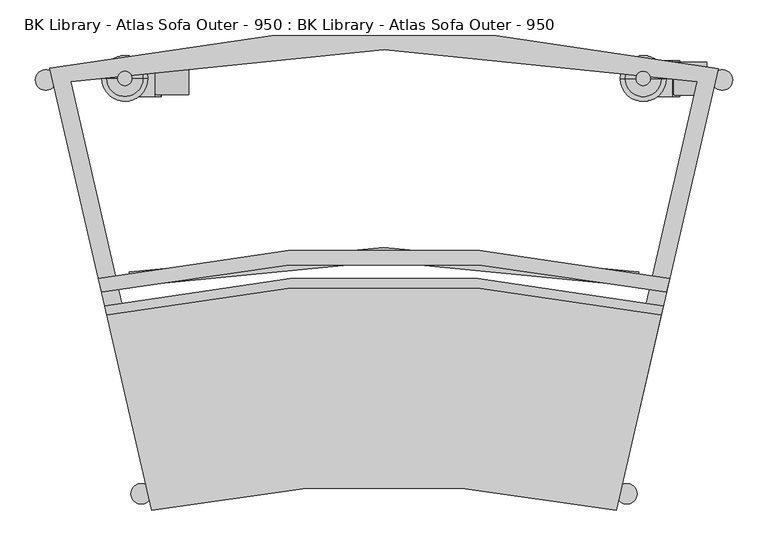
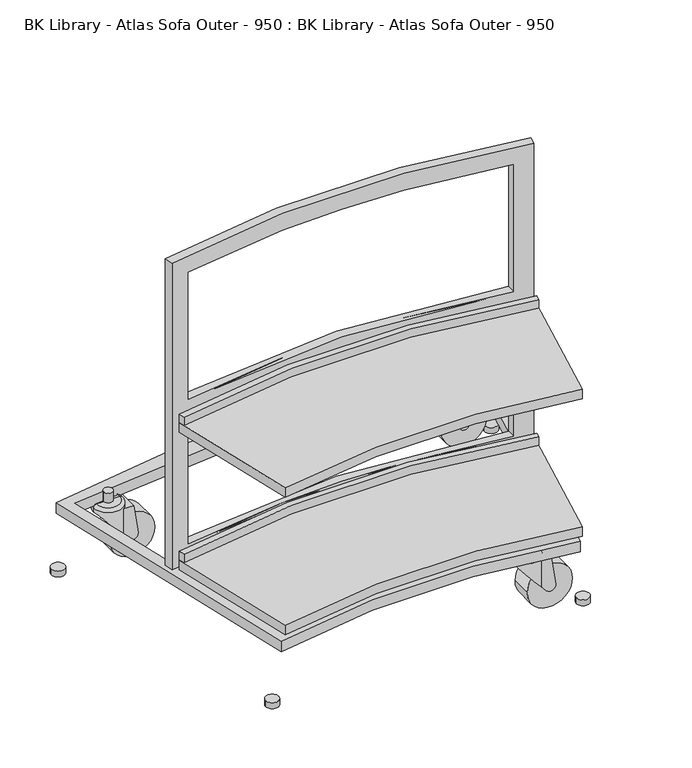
"""IFC4 building model written with IfcOpenShell, lengths in millimetres: furniture geometry, BK Library - Atlas Sofa Outer - 950 : BK Library - Atlas Sofa Outer - 950."""

from ifc_helpers import new_model, si_unit, point, frame, frame_2d, origin, origin_with_axes, place, context, project, spatial, polyline, circle_curve, ellipse_curve, trimmed, segment, composite_curve, outline, extrude, source, transform, mapped, element, save
from ifc_brep_helpers import plane_surface, cylinder_surface, revolved_surface, advanced_brep


def bk_library_atlas_sofa_outer_950_bk_library_atlas_sofa_outer_0c4ed581(model_context):
    return source(origin(), model_context, "Body", "SolidModel", [
        advanced_brep(
        [(209.7505812, -241.350678, 113.1446696), (209.7505812, -267.2971978, 113.1446696), (207.0481733, -254.3239379, 113.1446696), (270.6212072, -279.8412398, 41.8401668), (290.9900774, -279.8412398, 51.0748876), (281.4730575, -279.8412398, 116.3900038), (259.6524577, -279.8412398, 116.3900038), (259.6524577, -279.8412398, 54.6890773), (281.4730575, -228.8995985, 116.3900038), (290.9900774, -228.8995985, 51.0748876), (270.6212072, -228.8995985, 41.8401668), (259.7698407, -228.8995985, 54.5515736), (259.7698407, -228.8995985, 116.3900038), (272.0303981, -254.3239379, 116.3900038), (270.6212072, -277.4827459, 41.8401668), (270.6212072, -231.2580924, 41.8401668), (262.422449, -231.2580924, 51.4442799), (268.358405, -239.3195801, 44.4908375), (268.358405, -254.3239379, 44.4908375), (268.358405, -269.3282957, 44.4908375), (262.328362, -277.4827459, 51.5544945), (290.9900774, -277.4827459, 51.0748876), (290.9900774, -231.2580924, 51.0748876), (281.8358742, -277.4827459, 113.8999998), (281.8358742, -231.2580924, 113.8999998), (262.328362, -277.4827459, 113.8999998), (272.0303981, -254.3239379, 113.8999998), (262.422449, -231.2580924, 113.8999998), (207.0481733, -254.3239379, 121.6226045), (272.0303981, -254.3239379, 121.6226045), (272.0303981, -254.3239379, 44.4908375), (265.0303981, -254.3239379, 128.6226045), (214.0481733, -254.3239379, 128.6226045), (239.5392857, -254.3239379, 128.6226045)],
        [
            (0, 1),
            (1, 2, circle_curve(frame((239.5392857, -254.3239379, 113.1446696), z_axis=(0.0, 0.0, -1.0), x_axis=(-1.0, 0.0, 0.0)), 32.4911124)),
            (2, 0, circle_curve(frame((239.5392857, -254.3239379, 113.1446696), z_axis=(0.0, 0.0, -1.0), x_axis=(-1.0, 0.0, 0.0)), 32.4911124)),
            (3, 4, circle_curve(frame((279.4730731, -279.8412398, 49.3967529), z_axis=(0.0, -1.0, 0.0), x_axis=(1.0, 0.0, 0.0)), 11.6386221)),
            (4, 5),
            (5, 6),
            (6, 7),
            (7, 3),
            (8, 9),
            (9, 10, circle_curve(frame((279.4730731, -228.8995985, 49.3967529), z_axis=(0.0, 1.0, 0.0), x_axis=(1.0, 0.0, 0.0)), 11.6386221)),
            (10, 11),
            (11, 12),
            (12, 8),
            (5, 8),
            (12, 13, circle_curve(frame((239.5392857, -254.3239379, 116.3900038), z_axis=(0.0, 0.0, -1.0), x_axis=(-1.0, 0.0, 0.0)), 32.4911124)),
            (13, 6, circle_curve(frame((239.5392857, -254.3239379, 116.3900038), z_axis=(0.0, 0.0, -1.0), x_axis=(-1.0, 0.0, 0.0)), 32.4911124)),
            (14, 3),
            (7, 1, ellipse_curve(frame((239.5392857, -254.3239379, 78.2498623), z_axis=(-0.7605596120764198, 0.0, -0.6492681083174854), x_axis=(0.6492681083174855, 0.0, -0.7605596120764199)), 50.0426742, 32.4911124)),
            (0, 11, ellipse_curve(frame((239.5392857, -254.3239379, 78.2498623), z_axis=(-0.7605596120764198, 0.0, -0.6492681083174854), x_axis=(0.6492681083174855, 0.0, -0.7605596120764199)), 50.0426742, 32.4911124)),
            (10, 15),
            (15, 16),
            (16, 17, ellipse_curve(frame((239.5392857, -254.3239379, 78.2498623), z_axis=(-0.7605596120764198, 0.0, -0.6492681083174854), x_axis=(0.6492681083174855, 0.0, -0.7605596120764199)), 50.0426742, 32.4911124)),
            (17, 18),
            (18, 19),
            (19, 20, ellipse_curve(frame((239.5392857, -254.3239379, 78.2498623), z_axis=(-0.7605596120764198, 0.0, -0.6492681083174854), x_axis=(0.6492681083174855, 0.0, -0.7605596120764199)), 50.0426742, 32.4911124)),
            (20, 14),
            (14, 21, circle_curve(frame((279.4730731, -277.4827459, 49.3967529), z_axis=(0.0, -1.0, 0.0), x_axis=(1.0, 0.0, 0.0)), 11.6386221)),
            (21, 4),
            (9, 22),
            (22, 15, circle_curve(frame((279.4730731, -231.2580924, 49.3967529), z_axis=(0.0, 1.0, 0.0), x_axis=(1.0, 0.0, 0.0)), 11.6386221)),
            (21, 23),
            (23, 24),
            (24, 22),
            (20, 25),
            (25, 23),
            (25, 26, circle_curve(frame((239.5392857, -254.3239379, 113.8999998), z_axis=(0.0, 0.0, 1.0), x_axis=(-1.0, 0.0, 0.0)), 32.4911124)),
            (26, 27, circle_curve(frame((239.5392857, -254.3239379, 113.8999998), z_axis=(0.0, 0.0, 1.0), x_axis=(-1.0, 0.0, 0.0)), 32.4911124)),
            (27, 24),
            (27, 16),
            (28, 29, circle_curve(frame((239.5392857, -254.3239379, 121.6226045), z_axis=(0.0, 0.0, -1.0), x_axis=(-1.0, 0.0, 0.0)), 32.4911124)),
            (29, 13),
            (2, 28),
            (26, 30),
            (30, 17, circle_curve(frame((239.5392857, -254.3239379, 44.4908375), z_axis=(0.0, 0.0, 1.0), x_axis=(-1.0, 0.0, 0.0)), 32.4911124)),
            (19, 30, circle_curve(frame((239.5392857, -254.3239379, 44.4908375), z_axis=(0.0, 0.0, 1.0), x_axis=(-1.0, 0.0, 0.0)), 32.4911124)),
            (29, 28, circle_curve(frame((239.5392857, -254.3239379, 121.6226045), z_axis=(0.0, 0.0, -1.0), x_axis=(-1.0, 0.0, 0.0)), 32.4911124)),
            (30, 18),
            (31, 32, circle_curve(frame((239.5392857, -254.3239379, 128.6226045), z_axis=(0.0, 0.0, 1.0), x_axis=(-1.0, 0.0, 0.0)), 25.4911124)),
            (32, 33),
            (33, 31),
            (32, 31, circle_curve(frame((239.5392857, -254.3239379, 128.6226045), z_axis=(0.0, 0.0, 1.0), x_axis=(-1.0, 0.0, 0.0)), 25.4911124)),
            (28, 32, circle_curve(frame((214.0481733, -254.3239379, 121.6226045), z_axis=(0.0, 1.0, 0.0), x_axis=(1.0, 0.0, 0.0)), 7.0)),
            (31, 29, circle_curve(frame((265.0303981, -254.3239379, 121.6226045), z_axis=(0.0, 1.0, 0.0), x_axis=(-1.0, 0.0, 0.0)), 7.0)),
        ],
        [
            plane_surface(frame((209.7505812, -336.8261814, 113.1446696), z_axis=(0.0, 0.0, -1.0), x_axis=(0.0, 1.0, 0.0))),
            plane_surface(frame((281.4730575, -279.8412398, 116.3900038), z_axis=(0.0, -1.0, 0.0), x_axis=(-1.0, 0.0, 0.0))),
            plane_surface(frame((281.4730575, -228.8995985, 116.3900038), z_axis=(0.0, 1.0, 0.0), x_axis=(1.0, 0.0, 0.0))),
            plane_surface(frame((281.4730575, -279.8412398, 116.3900038), z_axis=(0.0, 0.0, 1.0), x_axis=(0.0, 1.0, 0.0))),
            plane_surface(frame((236.4730575, -279.8412398, 81.8416749), z_axis=(-0.7605596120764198, 0.0, -0.6492681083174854), x_axis=(0.0, 1.0, 0.0))),
            cylinder_surface(frame((279.4730731, -228.8995985, 49.3967529), z_axis=(0.0, -1.0, 0.0), x_axis=(1.0, 0.0, 0.0)), 11.6386221),
            plane_surface(frame((290.9900774, -279.8412398, 51.0748876), z_axis=(0.9895505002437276, 0.0, 0.14418671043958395), x_axis=(0.0, 1.0, 0.0))),
            plane_surface(frame((305.0673642, -277.4827459, 113.8999998), z_axis=(0.0, 1.0, 0.0), x_axis=(-1.0, 0.0, 0.0))),
            plane_surface(frame((305.0673642, -231.2580924, 113.8999998), z_axis=(0.0, 0.0, -1.0), x_axis=(-1.0, 0.0, 0.0))),
            plane_surface(frame((305.0673642, -231.2580924, 11.6999998), z_axis=(0.0, -1.0, 0.0), x_axis=(-1.0, 0.0, 0.0))),
            cylinder_surface(frame((239.5392857, -254.3239379, 133.8335618), z_axis=(0.0, 0.0, -1.0), x_axis=(-1.0, 0.0, 0.0)), 32.4911124),
            plane_surface(frame((239.5392857, -254.3239379, 44.4908375), z_axis=(0.0, 0.0, -1.0), x_axis=(-1.0, 0.0, 0.0))),
            plane_surface(frame((239.5392857, -254.3239379, 128.6226045), z_axis=(0.0, 0.0, 1.0), x_axis=(-1.0, 0.0, 0.0))),
            revolved_surface(trimmed(ellipse_curve(frame((214.0481733, -254.3239379, 121.6226045), z_axis=(0.0, -1.0, 0.0), x_axis=(1.0, 0.0, 0.0)), 7.0, 7.0), [point((214.0481733, -254.3239379, 128.6226045))], [point((207.0481733, -254.3239379, 121.6226045))], True, "CARTESIAN"), (239.5392857, -254.3239379, 133.8335618), (0.0, 0.0, -1.0)),
        ],
        [
            (0, [[1, 2, 3]]),
            (1, [[4, 5, 6, 7, 8]]),
            (2, [[9, 10, 11, 12, 13]]),
            (3, [[14, -13, 15, 16, -6]]),
            (4, [[17, -8, 18, -1, 19, -11, 20, 21, 22, 23, 24, 25, 26]]),
            (5, [[-4, -17, 27, 28]]),
            (5, [[-10, 29, 30, -20]]),
            (6, [[-5, -28, 31, 32, 33, -29, -9, -14]]),
            (7, [[-27, -26, 34, 35, -31]]),
            (8, [[-32, -35, 36, 37, 38]]),
            (9, [[-30, -33, -38, 39, -21]]),
            (10, [[40, 41, -15, -12, -19, -3, 42]]),
            (10, [[43, 44, -22, -39, -37]]),
            (10, [[-43, -36, -34, -25, 45]]),
            (10, [[46, -42, -2, -18, -7, -16, -41]]),
            (11, [[-44, 47, -23]]),
            (11, [[-47, -45, -24]]),
            (12, [[48, 49, 50]]),
            (12, [[-49, 51, -50]]),
            (13, [[-40, 52, -48, 53]]),
            (13, [[-46, -53, -51, -52]]),
        ],
    ),
        extrude(outline(composite_curve([segment(trimmed(circle_curve(frame_2d((49.3999998, 279.5548478)), 50.0), [point((49.3999998, 229.5548478))], [point((49.3999998, 329.5548478))], False, "CARTESIAN"), True, "CONTINUOUS"), segment(trimmed(circle_curve(frame_2d((49.3999998, 279.5548478)), 50.0), [point((49.3999998, 329.5548478))], [point((49.3999998, 229.5548478))], False, "CARTESIAN"), True, "CONTINUOUS")], self_intersect=False)), frame((0.0, -277.4827459, 0.0), z_axis=(0.0, 1.0, 0.0), x_axis=(0.0, 0.0, 1.0)), (0.0, 0.0, 1.0), 46.2857127),
        extrude(outline(composite_curve([segment(trimmed(circle_curve(frame_2d((239.5392857, -254.3548557)), 10.0), [point((229.5392857, -254.3548557))], [point((249.5392857, -254.3548557))], False, "CARTESIAN"), True, "CONTINUOUS"), segment(trimmed(circle_curve(frame_2d((239.5392857, -254.3548557)), 10.0), [point((249.5392857, -254.3548557))], [point((229.5392857, -254.3548557))], False, "CARTESIAN"), True, "CONTINUOUS")], self_intersect=False)), frame((0.0, 0.0, 126.1999998), z_axis=(0.0, 0.0, 1.0), x_axis=(1.0, 0.0, 0.0)), (0.0, 0.0, 1.0), 24.8998986),
        advanced_brep(
        [(336.1023802, 305.2827462, 113.1446696), (336.1023802, 279.3362264, 113.1446696), (333.3999722, 292.3094863, 113.1446696), (396.9730061, 266.7921844, 41.8401668), (417.3418763, 266.7921844, 51.0748876), (407.8248565, 266.7921844, 116.3900038), (386.0042567, 266.7921844, 116.3900038), (386.0042567, 266.7921844, 54.6890773), (407.8248565, 317.7338257, 116.3900038), (417.3418763, 317.7338257, 51.0748876), (396.9730061, 317.7338257, 41.8401668), (386.1216397, 317.7338257, 54.5515736), (386.1216397, 317.7338257, 116.3900038), (398.3821971, 292.3094863, 116.3900038), (396.9730061, 269.1506783, 41.8401668), (396.9730061, 315.3753318, 41.8401668), (388.7742479, 315.3753318, 51.4442799), (394.7102039, 307.3138441, 44.4908375), (394.7102039, 292.3094863, 44.4908375), (394.7102039, 277.3051285, 44.4908375), (388.6801609, 269.1506783, 51.5544945), (417.3418763, 269.1506783, 51.0748876), (417.3418763, 315.3753318, 51.0748876), (408.1876732, 269.1506783, 113.8999998), (408.1876732, 315.3753318, 113.8999998), (388.6801609, 269.1506783, 113.8999998), (398.3821971, 292.3094863, 113.8999998), (388.7742479, 315.3753318, 113.8999998), (333.3999722, 292.3094863, 121.6226045), (398.3821971, 292.3094863, 121.6226045), (398.3821971, 292.3094863, 44.4908375), (391.3821971, 292.3094863, 128.6226045), (340.3999722, 292.3094863, 128.6226045), (365.8910847, 292.3094863, 128.6226045)],
        [
            (0, 1),
            (1, 2, circle_curve(frame((365.8910847, 292.3094863, 113.1446696), z_axis=(0.0, 0.0, -1.0), x_axis=(-1.0, 0.0, 0.0)), 32.4911124)),
            (2, 0, circle_curve(frame((365.8910847, 292.3094863, 113.1446696), z_axis=(0.0, 0.0, -1.0), x_axis=(-1.0, 0.0, 0.0)), 32.4911124)),
            (3, 4, circle_curve(frame((405.824872, 266.7921844, 49.3967529), z_axis=(0.0, -1.0, 0.0), x_axis=(1.0, 0.0, 0.0)), 11.6386221)),
            (4, 5),
            (5, 6),
            (6, 7),
            (7, 3),
            (8, 9),
            (9, 10, circle_curve(frame((405.824872, 317.7338257, 49.3967529), z_axis=(0.0, 1.0, 0.0), x_axis=(1.0, 0.0, 0.0)), 11.6386221)),
            (10, 11),
            (11, 12),
            (12, 8),
            (5, 8),
            (12, 13, circle_curve(frame((365.8910847, 292.3094863, 116.3900038), z_axis=(0.0, 0.0, -1.0), x_axis=(-1.0, 0.0, 0.0)), 32.4911124)),
            (13, 6, circle_curve(frame((365.8910847, 292.3094863, 116.3900038), z_axis=(0.0, 0.0, -1.0), x_axis=(-1.0, 0.0, 0.0)), 32.4911124)),
            (14, 3),
            (7, 1, ellipse_curve(frame((365.8910847, 292.3094863, 78.2498623), z_axis=(-0.76055961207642, 0.0, -0.649268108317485), x_axis=(0.649268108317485, 0.0, -0.76055961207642)), 50.0426742, 32.4911124)),
            (0, 11, ellipse_curve(frame((365.8910847, 292.3094863, 78.2498623), z_axis=(-0.76055961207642, 0.0, -0.649268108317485), x_axis=(0.649268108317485, 0.0, -0.76055961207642)), 50.0426742, 32.4911124)),
            (10, 15),
            (15, 16),
            (16, 17, ellipse_curve(frame((365.8910847, 292.3094863, 78.2498623), z_axis=(-0.76055961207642, 0.0, -0.649268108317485), x_axis=(0.649268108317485, 0.0, -0.76055961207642)), 50.0426742, 32.4911124)),
            (17, 18),
            (18, 19),
            (19, 20, ellipse_curve(frame((365.8910847, 292.3094863, 78.2498623), z_axis=(-0.76055961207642, 0.0, -0.649268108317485), x_axis=(0.649268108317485, 0.0, -0.76055961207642)), 50.0426742, 32.4911124)),
            (20, 14),
            (14, 21, circle_curve(frame((405.824872, 269.1506783, 49.3967529), z_axis=(0.0, -1.0, 0.0), x_axis=(1.0, 0.0, 0.0)), 11.6386221)),
            (21, 4),
            (9, 22),
            (22, 15, circle_curve(frame((405.824872, 315.3753318, 49.3967529), z_axis=(0.0, 1.0, 0.0), x_axis=(1.0, 0.0, 0.0)), 11.6386221)),
            (21, 23),
            (23, 24),
            (24, 22),
            (20, 25),
            (25, 23),
            (25, 26, circle_curve(frame((365.8910847, 292.3094863, 113.8999998), z_axis=(0.0, 0.0, 1.0), x_axis=(-1.0, 0.0, 0.0)), 32.4911124)),
            (26, 27, circle_curve(frame((365.8910847, 292.3094863, 113.8999998), z_axis=(0.0, 0.0, 1.0), x_axis=(-1.0, 0.0, 0.0)), 32.4911124)),
            (27, 24),
            (27, 16),
            (28, 29, circle_curve(frame((365.8910847, 292.3094863, 121.6226045), z_axis=(0.0, 0.0, -1.0), x_axis=(-1.0, 0.0, 0.0)), 32.4911124)),
            (29, 13),
            (2, 28),
            (26, 30),
            (30, 17, circle_curve(frame((365.8910847, 292.3094863, 44.4908375), z_axis=(0.0, 0.0, 1.0), x_axis=(-1.0, 0.0, 0.0)), 32.4911124)),
            (19, 30, circle_curve(frame((365.8910847, 292.3094863, 44.4908375), z_axis=(0.0, 0.0, 1.0), x_axis=(-1.0, 0.0, 0.0)), 32.4911124)),
            (29, 28, circle_curve(frame((365.8910847, 292.3094863, 121.6226045), z_axis=(0.0, 0.0, -1.0), x_axis=(-1.0, 0.0, 0.0)), 32.4911124)),
            (30, 18),
            (31, 32, circle_curve(frame((365.8910847, 292.3094863, 128.6226045), z_axis=(0.0, 0.0, 1.0), x_axis=(-1.0, 0.0, 0.0)), 25.4911124)),
            (32, 33),
            (33, 31),
            (32, 31, circle_curve(frame((365.8910847, 292.3094863, 128.6226045), z_axis=(0.0, 0.0, 1.0), x_axis=(-1.0, 0.0, 0.0)), 25.4911124)),
            (28, 32, circle_curve(frame((340.3999722, 292.3094863, 121.6226045), z_axis=(0.0, 1.0, 0.0), x_axis=(1.0, 0.0, 0.0)), 7.0)),
            (31, 29, circle_curve(frame((391.3821971, 292.3094863, 121.6226045), z_axis=(0.0, 1.0, 0.0), x_axis=(-1.0, 0.0, 0.0)), 7.0)),
        ],
        [
            plane_surface(frame((336.1023802, 209.8072428, 113.1446696), z_axis=(0.0, 0.0, -1.0), x_axis=(0.0, 1.0, 0.0))),
            plane_surface(frame((407.8248565, 266.7921844, 116.3900038), z_axis=(0.0, -1.0, 0.0), x_axis=(-1.0, 0.0, 0.0))),
            plane_surface(frame((407.8248565, 317.7338257, 116.3900038), z_axis=(0.0, 1.0, 0.0), x_axis=(1.0, 0.0, 0.0))),
            plane_surface(frame((407.8248565, 266.7921844, 116.3900038), z_axis=(0.0, 0.0, 1.0), x_axis=(0.0, 1.0, 0.0))),
            plane_surface(frame((362.8248565, 266.7921844, 81.8416749), z_axis=(-0.76055961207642, 0.0, -0.649268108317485), x_axis=(0.0, 1.0, 0.0))),
            cylinder_surface(frame((405.824872, 317.7338257, 49.3967529), z_axis=(0.0, -1.0, 0.0), x_axis=(1.0, 0.0, 0.0)), 11.6386221),
            plane_surface(frame((417.3418763, 266.7921844, 51.0748876), z_axis=(0.9895505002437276, 0.0, 0.14418671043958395), x_axis=(0.0, 1.0, 0.0))),
            plane_surface(frame((431.4191632, 269.1506783, 113.8999998), z_axis=(0.0, 1.0, 0.0), x_axis=(-1.0, 0.0, 0.0))),
            plane_surface(frame((431.4191632, 315.3753318, 113.8999998), z_axis=(0.0, 0.0, -1.0), x_axis=(-1.0, 0.0, 0.0))),
            plane_surface(frame((431.4191632, 315.3753318, 11.6999998), z_axis=(0.0, -1.0, 0.0), x_axis=(-1.0, 0.0, 0.0))),
            cylinder_surface(frame((365.8910847, 292.3094863, 133.8335618), z_axis=(0.0, 0.0, -1.0), x_axis=(-1.0, 0.0, 0.0)), 32.4911124),
            plane_surface(frame((365.8910847, 292.3094863, 44.4908375), z_axis=(0.0, 0.0, -1.0), x_axis=(-1.0, 0.0, 0.0))),
            plane_surface(frame((365.8910847, 292.3094863, 128.6226045), z_axis=(0.0, 0.0, 1.0), x_axis=(-1.0, 0.0, 0.0))),
            revolved_surface(trimmed(ellipse_curve(frame((340.3999722, 292.3094863, 121.6226045), z_axis=(0.0, -1.0, 0.0), x_axis=(1.0, 0.0, 0.0)), 7.0, 7.0), [point((340.3999722, 292.3094863, 128.6226045))], [point((333.3999722, 292.3094863, 121.6226045))], True, "CARTESIAN"), (365.8910847, 292.3094863, 133.8335618), (0.0, 0.0, -1.0)),
        ],
        [
            (0, [[1, 2, 3]]),
            (1, [[4, 5, 6, 7, 8]]),
            (2, [[9, 10, 11, 12, 13]]),
            (3, [[14, -13, 15, 16, -6]]),
            (4, [[17, -8, 18, -1, 19, -11, 20, 21, 22, 23, 24, 25, 26]]),
            (5, [[-4, -17, 27, 28]]),
            (5, [[-10, 29, 30, -20]]),
            (6, [[-5, -28, 31, 32, 33, -29, -9, -14]]),
            (7, [[-27, -26, 34, 35, -31]]),
            (8, [[-32, -35, 36, 37, 38]]),
            (9, [[-30, -33, -38, 39, -21]]),
            (10, [[40, 41, -15, -12, -19, -3, 42]]),
            (10, [[43, 44, -22, -39, -37]]),
            (10, [[-43, -36, -34, -25, 45]]),
            (10, [[46, -42, -2, -18, -7, -16, -41]]),
            (11, [[-44, 47, -23]]),
            (11, [[-47, -45, -24]]),
            (12, [[48, 49, 50]]),
            (12, [[-49, 51, -50]]),
            (13, [[-40, 52, -48, 53]]),
            (13, [[-46, -53, -51, -52]]),
        ],
    ),
        extrude(outline(composite_curve([segment(trimmed(circle_curve(frame_2d((49.3999998, 405.9066468)), 50.0), [point((49.3999998, 355.9066468))], [point((49.3999998, 455.9066468))], False, "CARTESIAN"), True, "CONTINUOUS"), segment(trimmed(circle_curve(frame_2d((49.3999998, 405.9066468)), 50.0), [point((49.3999998, 455.9066468))], [point((49.3999998, 355.9066468))], False, "CARTESIAN"), True, "CONTINUOUS")], self_intersect=False)), frame((0.0, 269.1506783, 0.0), z_axis=(0.0, 1.0, 0.0), x_axis=(0.0, 0.0, 1.0)), (0.0, 0.0, 1.0), 46.2857127),
        extrude(outline(composite_curve([segment(trimmed(circle_curve(frame_2d((49.3999998, -325.7608412)), 50.0), [point((49.3999998, -375.7608412))], [point((49.3999998, -275.7608412))], False, "CARTESIAN"), True, "CONTINUOUS"), segment(trimmed(circle_curve(frame_2d((49.3999998, -325.7608412)), 50.0), [point((49.3999998, -275.7608412))], [point((49.3999998, -375.7608412))], False, "CARTESIAN"), True, "CONTINUOUS")], self_intersect=False)), frame((0.0, 269.3422284, 0.0), z_axis=(0.0, 1.0, 0.0), x_axis=(0.0, 0.0, 1.0)), (0.0, 0.0, 1.0), 46.2857127),
        extrude(outline(composite_curve([segment(trimmed(circle_curve(frame_2d((365.8910847, 292.2785685)), 10.0), [point((355.8910847, 292.2785685))], [point((375.8910847, 292.2785685))], False, "CARTESIAN"), True, "CONTINUOUS"), segment(trimmed(circle_curve(frame_2d((365.8910847, 292.2785685)), 10.0), [point((375.8910847, 292.2785685))], [point((355.8910847, 292.2785685))], False, "CARTESIAN"), True, "CONTINUOUS")], self_intersect=False)), frame((0.0, 0.0, 126.1999998), z_axis=(0.0, 0.0, 1.0), x_axis=(1.0, 0.0, 0.0)), (0.0, 0.0, 1.0), 24.8998986),
        advanced_brep(
        [(-334.6944819, 266.9837345, 41.8401668), (-314.3256117, 266.9837345, 51.0748876), (-323.8426315, 266.9837345, 116.3900038), (-345.6632313, 266.9837345, 116.3900038), (-345.6632313, 266.9837345, 54.6890773), (-323.8426315, 317.9253758, 116.3900038), (-314.3256117, 317.9253758, 51.0748876), (-334.6944819, 317.9253758, 41.8401668), (-345.5458483, 317.9253758, 54.5515736), (-345.5458483, 317.9253758, 116.3900038), (-333.2852909, 292.5010364, 116.3900038), (-334.6944819, 269.3422284, 41.8401668), (-395.5651078, 279.5277766, 113.1446696), (-395.5651078, 305.4742963, 113.1446696), (-334.6944819, 315.5668819, 41.8401668), (-342.89324, 315.5668819, 51.4442799), (-336.9572841, 307.5053942, 44.4908375), (-336.9572841, 292.5010364, 44.4908375), (-336.9572841, 277.4966786, 44.4908375), (-342.9873271, 269.3422284, 51.5544945), (-314.3256117, 269.3422284, 51.0748876), (-314.3256117, 315.5668819, 51.0748876), (-323.4798148, 269.3422284, 113.8999998), (-323.4798148, 315.5668819, 113.8999998), (-342.9873271, 269.3422284, 113.8999998), (-333.2852909, 292.5010364, 113.8999998), (-342.89324, 315.5668819, 113.8999998), (-398.2675157, 292.5010364, 121.6226045), (-333.2852909, 292.5010364, 121.6226045), (-398.2675157, 292.5010364, 113.1446696), (-333.2852909, 292.5010364, 44.4908375), (-340.2852909, 292.5010364, 128.6226045), (-391.2675157, 292.5010364, 128.6226045), (-365.7764033, 292.5010364, 128.6226045)],
        [
            (0, 1, circle_curve(frame((-325.842616, 266.9837345, 49.3967529), z_axis=(0.0, -1.0, 0.0), x_axis=(1.0, 0.0, 0.0)), 11.6386221)),
            (1, 2),
            (2, 3),
            (3, 4),
            (4, 0),
            (5, 6),
            (6, 7, circle_curve(frame((-325.842616, 317.9253758, 49.3967529), z_axis=(0.0, 1.0, 0.0), x_axis=(1.0, 0.0, 0.0)), 11.6386221)),
            (7, 8),
            (8, 9),
            (9, 5),
            (2, 5),
            (9, 10, circle_curve(frame((-365.7764033, 292.5010364, 116.3900038), z_axis=(0.0, 0.0, -1.0), x_axis=(-1.0, 0.0, 0.0)), 32.4911124)),
            (10, 3, circle_curve(frame((-365.7764033, 292.5010364, 116.3900038), z_axis=(0.0, 0.0, -1.0), x_axis=(-1.0, 0.0, 0.0)), 32.4911124)),
            (11, 0),
            (4, 12, ellipse_curve(frame((-365.7764033, 292.5010364, 78.2498623), z_axis=(-0.76055961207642, 0.0, -0.649268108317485), x_axis=(0.649268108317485, 0.0, -0.76055961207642)), 50.0426742, 32.4911124)),
            (12, 13),
            (13, 8, ellipse_curve(frame((-365.7764033, 292.5010364, 78.2498623), z_axis=(-0.76055961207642, 0.0, -0.649268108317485), x_axis=(0.649268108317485, 0.0, -0.76055961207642)), 50.0426742, 32.4911124)),
            (7, 14),
            (14, 15),
            (15, 16, ellipse_curve(frame((-365.7764033, 292.5010364, 78.2498623), z_axis=(-0.76055961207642, 0.0, -0.649268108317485), x_axis=(0.649268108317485, 0.0, -0.76055961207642)), 50.0426742, 32.4911124)),
            (16, 17),
            (17, 18),
            (18, 19, ellipse_curve(frame((-365.7764033, 292.5010364, 78.2498623), z_axis=(-0.76055961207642, 0.0, -0.649268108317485), x_axis=(0.649268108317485, 0.0, -0.76055961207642)), 50.0426742, 32.4911124)),
            (19, 11),
            (11, 20, circle_curve(frame((-325.842616, 269.3422284, 49.3967529), z_axis=(0.0, -1.0, 0.0), x_axis=(1.0, 0.0, 0.0)), 11.6386221)),
            (20, 1),
            (6, 21),
            (21, 14, circle_curve(frame((-325.842616, 315.5668819, 49.3967529), z_axis=(0.0, 1.0, 0.0), x_axis=(1.0, 0.0, 0.0)), 11.6386221)),
            (20, 22),
            (22, 23),
            (23, 21),
            (19, 24),
            (24, 22),
            (24, 25, circle_curve(frame((-365.7764033, 292.5010364, 113.8999998), z_axis=(0.0, 0.0, 1.0), x_axis=(-1.0, 0.0, 0.0)), 32.4911124)),
            (25, 26, circle_curve(frame((-365.7764033, 292.5010364, 113.8999998), z_axis=(0.0, 0.0, 1.0), x_axis=(-1.0, 0.0, 0.0)), 32.4911124)),
            (26, 23),
            (26, 15),
            (27, 28, circle_curve(frame((-365.7764033, 292.5010364, 121.6226045), z_axis=(0.0, 0.0, -1.0), x_axis=(-1.0, 0.0, 0.0)), 32.4911124)),
            (28, 10),
            (13, 29, circle_curve(frame((-365.7764033, 292.5010364, 113.1446696), z_axis=(0.0, 0.0, 1.0), x_axis=(-1.0, 0.0, 0.0)), 32.4911124)),
            (29, 27),
            (30, 16, circle_curve(frame((-365.7764033, 292.5010364, 44.4908375), z_axis=(0.0, 0.0, 1.0), x_axis=(-1.0, 0.0, 0.0)), 32.4911124)),
            (25, 30),
            (28, 27, circle_curve(frame((-365.7764033, 292.5010364, 121.6226045), z_axis=(0.0, 0.0, -1.0), x_axis=(-1.0, 0.0, 0.0)), 32.4911124)),
            (29, 12, circle_curve(frame((-365.7764033, 292.5010364, 113.1446696), z_axis=(0.0, 0.0, 1.0), x_axis=(-1.0, 0.0, 0.0)), 32.4911124)),
            (18, 30, circle_curve(frame((-365.7764033, 292.5010364, 44.4908375), z_axis=(0.0, 0.0, 1.0), x_axis=(-1.0, 0.0, 0.0)), 32.4911124)),
            (30, 17),
            (31, 32, circle_curve(frame((-365.7764033, 292.5010364, 128.6226045), z_axis=(0.0, 0.0, 1.0), x_axis=(-1.0, 0.0, 0.0)), 25.4911124)),
            (32, 33),
            (33, 31),
            (32, 31, circle_curve(frame((-365.7764033, 292.5010364, 128.6226045), z_axis=(0.0, 0.0, 1.0), x_axis=(-1.0, 0.0, 0.0)), 25.4911124)),
            (27, 32, circle_curve(frame((-391.2675157, 292.5010364, 121.6226045), z_axis=(0.0, 1.0, 0.0), x_axis=(1.0, 0.0, 0.0)), 7.0)),
            (31, 28, circle_curve(frame((-340.2852909, 292.5010364, 121.6226045), z_axis=(0.0, 1.0, 0.0), x_axis=(-1.0, 0.0, 0.0)), 7.0)),
        ],
        [
            plane_surface(frame((-323.8426315, 266.9837345, 116.3900038), z_axis=(0.0, -1.0, 0.0), x_axis=(-1.0, 0.0, 0.0))),
            plane_surface(frame((-323.8426315, 317.9253758, 116.3900038), z_axis=(0.0, 1.0, 0.0), x_axis=(1.0, 0.0, 0.0))),
            plane_surface(frame((-323.8426315, 266.9837345, 116.3900038), z_axis=(0.0, 0.0, 1.0), x_axis=(0.0, 1.0, 0.0))),
            plane_surface(frame((-368.8426315, 266.9837345, 81.8416749), z_axis=(-0.76055961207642, 0.0, -0.649268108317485), x_axis=(0.0, 1.0, 0.0))),
            cylinder_surface(frame((-325.842616, 317.9253758, 49.3967529), z_axis=(0.0, -1.0, 0.0), x_axis=(1.0, 0.0, 0.0)), 11.6386221),
            plane_surface(frame((-314.3256117, 266.9837345, 51.0748876), z_axis=(0.9895505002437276, 0.0, 0.14418671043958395), x_axis=(0.0, 1.0, 0.0))),
            plane_surface(frame((-300.2483248, 269.3422284, 113.8999998), z_axis=(0.0, 1.0, 0.0), x_axis=(-1.0, 0.0, 0.0))),
            plane_surface(frame((-300.2483248, 315.5668819, 113.8999998), z_axis=(0.0, 0.0, -1.0), x_axis=(-1.0, 0.0, 0.0))),
            plane_surface(frame((-300.2483248, 315.5668819, 11.6999998), z_axis=(0.0, -1.0, 0.0), x_axis=(-1.0, 0.0, 0.0))),
            cylinder_surface(frame((-365.7764033, 292.5010364, 133.8335618), z_axis=(0.0, 0.0, -1.0), x_axis=(-1.0, 0.0, 0.0)), 32.4911124),
            plane_surface(frame((-365.7764033, 292.5010364, 44.4908375), z_axis=(0.0, 0.0, -1.0), x_axis=(-1.0, 0.0, 0.0))),
            plane_surface(frame((-365.7764033, 292.5010364, 128.6226045), z_axis=(0.0, 0.0, 1.0), x_axis=(-1.0, 0.0, 0.0))),
            revolved_surface(trimmed(ellipse_curve(frame((-391.2675157, 292.5010364, 121.6226045), z_axis=(0.0, -1.0, 0.0), x_axis=(1.0, 0.0, 0.0)), 7.0, 7.0), [point((-391.2675157, 292.5010364, 128.6226045))], [point((-398.2675157, 292.5010364, 121.6226045))], True, "CARTESIAN"), (-365.7764033, 292.5010364, 133.8335618), (0.0, 0.0, -1.0)),
            plane_surface(frame((-395.5651078, 209.9987929, 113.1446696), z_axis=(0.0, 0.0, -1.0), x_axis=(0.0, 1.0, 0.0))),
        ],
        [
            (0, [[1, 2, 3, 4, 5]]),
            (1, [[6, 7, 8, 9, 10]]),
            (2, [[11, -10, 12, 13, -3]]),
            (3, [[14, -5, 15, 16, 17, -8, 18, 19, 20, 21, 22, 23, 24]]),
            (4, [[-1, -14, 25, 26]]),
            (4, [[-7, 27, 28, -18]]),
            (5, [[-2, -26, 29, 30, 31, -27, -6, -11]]),
            (6, [[-25, -24, 32, 33, -29]]),
            (7, [[-30, -33, 34, 35, 36]]),
            (8, [[-28, -31, -36, 37, -19]]),
            (9, [[38, 39, -12, -9, -17, 40, 41]]),
            (9, [[42, -20, -37, -35, 43]]),
            (9, [[44, -41, 45, -15, -4, -13, -39]]),
            (9, [[46, -43, -34, -32, -23]]),
            (10, [[-42, 47, -21]]),
            (10, [[-47, -46, -22]]),
            (11, [[48, 49, 50]]),
            (11, [[-49, 51, -50]]),
            (12, [[-38, 52, -48, 53]]),
            (12, [[-44, -53, -51, -52]]),
            (13, [[-16, -45, -40]]),
        ],
    ),
        extrude(outline(composite_curve([segment(trimmed(circle_curve(frame_2d((-365.7764033, 292.4701186)), 10.0), [point((-375.7764033, 292.4701186))], [point((-355.7764033, 292.4701186))], False, "CARTESIAN"), True, "CONTINUOUS"), segment(trimmed(circle_curve(frame_2d((-365.7764033, 292.4701186)), 10.0), [point((-355.7764033, 292.4701186))], [point((-375.7764033, 292.4701186))], False, "CARTESIAN"), True, "CONTINUOUS")], self_intersect=False)), frame((0.0, 0.0, 126.1999998), z_axis=(0.0, 0.0, 1.0), x_axis=(1.0, 0.0, 0.0)), (0.0, 0.0, 1.0), 24.8998986),
        extrude(outline(composite_curve([segment(trimmed(circle_curve(frame_2d((-0.1289567, -1789.54304)), 2148.52767), [point((-471.6391631, 306.6080219))], [point((471.6410197, 306.549572))], False, "CARTESIAN"), True, "CONTINUOUS"), segment(polyline([(471.6410197, 306.549572), (330.6052405, -305.0739935)]), True, "CONTINUOUS"), segment(trimmed(circle_curve(frame_2d((5.2928449, -1828.3638627)), 1557.6392973), [point((330.6052405, -305.0739935))], [point((-330.0861441, -307.2586348))], True, "CARTESIAN"), True, "CONTINUOUS"), segment(polyline([(-330.0861441, -307.2586348), (-471.6391631, 306.6080219)]), True, "CONTINUOUS")], self_intersect=False), holes=[composite_curve([segment(trimmed(circle_curve(frame_2d((0.0, -1803.8543755)), 1557.9492408), [point((-311.3398697, -277.3310961))], [point((311.3398697, -277.3310961))], False, "CARTESIAN"), True, "CONTINUOUS"), segment(polyline([(311.3398697, -277.3310961), (441.81755, 287.9820793)]), True, "CONTINUOUS"), segment(trimmed(circle_curve(frame_2d((0.0, -1860.8084472)), 2193.7418887), [point((441.81755, 287.9820793))], [point((-441.81755, 287.9820793))], True, "CARTESIAN"), True, "CONTINUOUS"), segment(polyline([(-441.81755, 287.9820793), (-311.3398697, -277.3310961)]), True, "CONTINUOUS")], self_intersect=False)]), frame((0.0, 0.0, 126.2197818), z_axis=(0.0, 0.0, 1.0), x_axis=(1.0, 0.0, 0.0)), (0.0, 0.0, 1.0), 24.8801166),
        advanced_brep(
        [(-403.1922937, 9.7442892, 876.1999998), (-398.6983746, -9.7442892, 876.1999998), (398.6983746, -9.7442892, 876.1999998), (403.1922937, 9.7442892, 876.1999998), (-403.1922937, 9.7442892, 161.1999998), (403.1922937, 9.7442892, 161.1999998), (398.6983746, -9.7442892, 161.1999998), (-398.6983746, -9.7442892, 161.1999998), (359.7000463, -1.6061954, 836.1999998), (359.7000463, -1.6061954, 538.6999998), (-359.7212176, -1.6103769, 538.6999998), (-359.7212176, -1.6103769, 836.1999998), (-359.7212176, -1.6103769, 498.6999998), (359.7000463, -1.6061954, 498.6999998), (359.7000463, -1.6061954, 201.1999998), (-359.7212176, -1.6103769, 201.1999998), (359.7000463, 18.8192746, 538.6999998), (359.7000463, 18.8192746, 836.1999998), (-359.7212176, 18.8151191, 836.1999998), (-359.7212176, 18.8151191, 538.6999998), (359.7000463, 18.8192746, 498.6999998), (-359.7212176, 18.8151191, 498.6999998), (-359.7212176, 18.8151191, 201.1999998), (359.7000463, 18.8192746, 201.1999998)],
        [
            (0, 1),
            (1, 2, circle_curve(frame((0.0, -1822.824997, 876.1999998), z_axis=(0.0, 0.0, -1.0), x_axis=(1.0, 0.0, 0.0)), 1856.4002927)),
            (2, 3),
            (3, 0, circle_curve(frame((0.0, -1813.8149651, 876.1999998), z_axis=(0.0, 0.0, 1.0), x_axis=(1.0, 0.0, 0.0)), 1867.6007014)),
            (4, 5, circle_curve(frame((0.0, -1813.8149651, 161.1999998), z_axis=(0.0, 0.0, -1.0), x_axis=(1.0, 0.0, 0.0)), 1867.6007014)),
            (5, 6),
            (6, 7, circle_curve(frame((0.0, -1822.824997, 161.1999998), z_axis=(0.0, 0.0, 1.0), x_axis=(1.0, 0.0, 0.0)), 1856.4002927)),
            (7, 4),
            (0, 4),
            (7, 1),
            (2, 6),
            (5, 3),
            (8, 9),
            (9, 10, circle_curve(frame((0.0, -1822.824997, 538.6999998), z_axis=(0.0, 0.0, 1.0), x_axis=(1.0, 0.0, 0.0)), 1856.4002927)),
            (10, 11),
            (11, 8, circle_curve(frame((0.0, -1822.824997, 836.1999998), z_axis=(0.0, 0.0, -1.0), x_axis=(1.0, 0.0, 0.0)), 1856.4002927)),
            (12, 13, circle_curve(frame((0.0, -1822.824997, 498.6999998), z_axis=(0.0, 0.0, -1.0), x_axis=(1.0, 0.0, 0.0)), 1856.4002927)),
            (13, 14),
            (14, 15, circle_curve(frame((0.0, -1822.824997, 201.1999998), z_axis=(0.0, 0.0, 1.0), x_axis=(1.0, 0.0, 0.0)), 1856.4002927)),
            (15, 12),
            (16, 17),
            (17, 18, circle_curve(frame((0.0, -1813.8149651, 836.1999998), z_axis=(0.0, 0.0, 1.0), x_axis=(1.0, 0.0, 0.0)), 1867.6007014)),
            (18, 19),
            (19, 16, circle_curve(frame((0.0, -1813.8149651, 538.6999998), z_axis=(0.0, 0.0, -1.0), x_axis=(1.0, 0.0, 0.0)), 1867.6007014)),
            (20, 21, circle_curve(frame((0.0, -1813.8149651, 498.6999998), z_axis=(0.0, 0.0, 1.0), x_axis=(1.0, 0.0, 0.0)), 1867.6007014)),
            (21, 22),
            (22, 23, circle_curve(frame((0.0, -1813.8149651, 201.1999998), z_axis=(0.0, 0.0, -1.0), x_axis=(1.0, 0.0, 0.0)), 1867.6007014)),
            (23, 20),
            (16, 9),
            (8, 17),
            (11, 18),
            (10, 19),
            (20, 13),
            (12, 21),
            (15, 22),
            (14, 23),
        ],
        [
            plane_surface(frame((-326.7956683, -321.5615447, 876.1999998), z_axis=(0.0, 0.0, 1.0), x_axis=(0.224695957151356, -0.9744289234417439, 0.0))),
            plane_surface(frame((-326.7956683, -321.5615447, 161.1999998), z_axis=(0.0, 0.0, -1.0), x_axis=(-0.224695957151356, 0.9744289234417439, 0.0))),
            plane_surface(frame((-403.1922937, 9.7442892, 876.1999998), z_axis=(-0.9744289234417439, -0.224695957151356, 0.0), x_axis=(0.0, 0.0, -1.0))),
            plane_surface(frame((398.6983746, -9.7442892, 876.1999998), z_axis=(0.974428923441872, -0.22469595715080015, 0.0), x_axis=(0.0, 0.0, -1.0))),
            revolved_surface(polyline([(1856.4002927, -1822.824997, 161.1999998), (1856.4002927, -1822.824997, 876.1999998)]), (0.0, -1822.824997, 161.1999998), (0.0, 0.0, -1.0)),
            cylinder_surface(frame((0.0, -1813.8149651, 161.1999998), z_axis=(0.0, 0.0, 1.0), x_axis=(1.0, 0.0, 0.0)), 1867.6007014),
            plane_surface(frame((359.7000463, -114.4923923, 538.6999998), z_axis=(-1.0, 0.0, 0.0), x_axis=(0.0, 1.0, 0.0))),
            plane_surface(frame((359.7000463, -114.4923923, 836.1999998), z_axis=(0.0, 0.0, -1.0), x_axis=(0.0, 1.0, 0.0))),
            plane_surface(frame((-359.7212176, -114.4923923, 836.1999998), z_axis=(1.0, 0.0, 0.0), x_axis=(0.0, 1.0, 0.0))),
            plane_surface(frame((-359.7212176, -114.4923923, 538.6999998), z_axis=(0.0, 0.0, 1.0), x_axis=(0.0, 1.0, 0.0))),
            plane_surface(frame((359.7000463, -114.4923923, 498.6999998), z_axis=(0.0, 0.0, -1.0), x_axis=(0.0, 1.0, 0.0))),
            plane_surface(frame((-359.7212176, -114.4923923, 498.6999998), z_axis=(1.0, 0.0, 0.0), x_axis=(0.0, 1.0, 0.0))),
            plane_surface(frame((-359.7212176, -114.4923923, 201.1999998), z_axis=(0.0, 0.0, 1.0), x_axis=(0.0, 1.0, 0.0))),
            plane_surface(frame((359.7000463, -114.4923923, 201.1999998), z_axis=(-1.0, 0.0, 0.0), x_axis=(0.0, 1.0, 0.0))),
        ],
        [
            (0, [[1, 2, 3, 4]]),
            (1, [[5, 6, 7, 8]]),
            (2, [[-1, 9, -8, 10]]),
            (3, [[-3, 11, -6, 12]]),
            (4, [[-2, -10, -7, -11], [13, 14, 15, 16], [17, 18, 19, 20]]),
            (5, [[-4, -12, -5, -9], [21, 22, 23, 24], [25, 26, 27, 28]]),
            (6, [[29, -13, 30, -21]]),
            (7, [[-30, -16, 31, -22]]),
            (8, [[-31, -15, 32, -23]]),
            (9, [[-29, -24, -32, -14]]),
            (10, [[33, -17, 34, -25]]),
            (11, [[-34, -20, 35, -26]]),
            (12, [[-35, -19, 36, -27]]),
            (13, [[-33, -28, -36, -18]]),
        ],
    ),
        extrude(outline(composite_curve([segment(trimmed(circle_curve(frame_2d((0.0, -1840.4430404)), 1557.6392973), [point((327.6944521, -317.663829))], [point((-327.6944521, -317.663829))], True, "CARTESIAN"), True, "CONTINUOUS"), segment(polyline([(-327.6944521, -317.663829), (-394.2058088, -29.2269986)]), True, "CONTINUOUS"), segment(trimmed(circle_curve(frame_2d((0.0, -1785.1487517)), 1799.627579), [point((-394.2058088, -29.2269986))], [point((394.2058088, -29.2269986))], False, "CARTESIAN"), True, "CONTINUOUS"), segment(polyline([(394.2058088, -29.2269986), (327.6944521, -317.663829)]), True, "CONTINUOUS")], self_intersect=False)), frame((0.0, 0.0, 171.6999998), z_axis=(0.0, 0.0, 1.0), x_axis=(1.0, 0.0, 0.0)), (0.0, 0.0, 1.0), 22.0),
        extrude(outline(composite_curve([segment(trimmed(circle_curve(frame_2d((0.0, -1840.4430404)), 1557.6392973), [point((327.6944521, -317.663829))], [point((-327.6944521, -317.663829))], True, "CARTESIAN"), True, "CONTINUOUS"), segment(polyline([(-327.6944521, -317.663829), (-394.2058088, -29.2269986)]), True, "CONTINUOUS"), segment(trimmed(circle_curve(frame_2d((0.0, -1785.1487517)), 1799.627579), [point((-394.2058088, -29.2269986))], [point((394.2058088, -29.2269986))], False, "CARTESIAN"), True, "CONTINUOUS"), segment(polyline([(394.2058088, -29.2269986), (327.6944521, -317.663829)]), True, "CONTINUOUS")], self_intersect=False)), frame((0.0, 0.0, 491.6999998), z_axis=(0.0, 0.0, 1.0), x_axis=(1.0, 0.0, 0.0)), (0.0, 0.0, 1.0), 22.0),
        extrude(outline(composite_curve([segment(trimmed(circle_curve(frame_2d((0.0, -1785.1487517)), 1799.627579), [point((-394.2058088, -29.2269986))], [point((394.2058088, -29.2269986))], False, "CARTESIAN"), True, "CONTINUOUS"), segment(polyline([(394.2058088, -29.2269986), (391.2848087, -41.8943694)]), True, "CONTINUOUS"), segment(trimmed(circle_curve(frame_2d((0.0, -1790.5831955)), 1791.9309172), [point((391.2848087, -41.8943694))], [point((-391.2848087, -41.8943694))], True, "CARTESIAN"), True, "CONTINUOUS"), segment(polyline([(-391.2848087, -41.8943694), (-394.2058088, -29.2269986)]), True, "CONTINUOUS")], self_intersect=False)), frame((0.0, 0.0, 193.6999998), z_axis=(0.0, 0.0, 1.0), x_axis=(1.0, 0.0, 0.0)), (0.0, 0.0, 1.0), 20.0),
        extrude(outline(composite_curve([segment(trimmed(circle_curve(frame_2d((0.0, -1785.1487517)), 1799.627579), [point((-394.2058088, -29.2269986))], [point((394.2058088, -29.2269986))], False, "CARTESIAN"), True, "CONTINUOUS"), segment(polyline([(394.2058088, -29.2269986), (391.2848087, -41.8943694)]), True, "CONTINUOUS"), segment(trimmed(circle_curve(frame_2d((0.0, -1790.5831955)), 1791.9309172), [point((391.2848087, -41.8943694))], [point((-391.2848087, -41.8943694))], True, "CARTESIAN"), True, "CONTINUOUS"), segment(polyline([(-391.2848087, -41.8943694), (-394.2058088, -29.2269986)]), True, "CONTINUOUS")], self_intersect=False)), frame((0.0, 0.0, 513.6999998), z_axis=(0.0, 0.0, 1.0), x_axis=(1.0, 0.0, 0.0)), (0.0, 0.0, 1.0), 20.0),
        extrude(outline(composite_curve([segment(trimmed(circle_curve(frame_2d((477.608406, 290.1883722)), 14.4994573), [point((492.1078633, 290.1883722))], [point((463.1089486, 290.1883722))], False, "CARTESIAN"), True, "CONTINUOUS"), segment(trimmed(circle_curve(frame_2d((477.608406, 290.1883722)), 14.4994573), [point((463.1089486, 290.1883722))], [point((492.1078633, 290.1883722))], False, "CARTESIAN"), True, "CONTINUOUS")], self_intersect=False)), origin_with_axes(), (0.0, 0.0, 1.0), 13.6999998),
        extrude(outline(composite_curve([segment(trimmed(circle_curve(frame_2d((-477.608406, 290.1883722)), 14.4994573), [point((-492.1078633, 290.1883722))], [point((-463.1089486, 290.1883722))], False, "CARTESIAN"), True, "CONTINUOUS"), segment(trimmed(circle_curve(frame_2d((-477.608406, 290.1883722)), 14.4994573), [point((-463.1089486, 290.1883722))], [point((-492.1078633, 290.1883722))], False, "CARTESIAN"), True, "CONTINUOUS")], self_intersect=False)), origin_with_axes(), (0.0, 0.0, 1.0), 13.6999998),
        extrude(outline(composite_curve([segment(trimmed(circle_curve(frame_2d((342.7923392, -294.4590973)), 14.4994573), [point((357.2917965, -294.4590973))], [point((328.2928818, -294.4590973))], False, "CARTESIAN"), True, "CONTINUOUS"), segment(trimmed(circle_curve(frame_2d((342.7923392, -294.4590973)), 14.4994573), [point((328.2928818, -294.4590973))], [point((357.2917965, -294.4590973))], False, "CARTESIAN"), True, "CONTINUOUS")], self_intersect=False)), origin_with_axes(), (0.0, 0.0, 1.0), 13.6999998),
        extrude(outline(composite_curve([segment(trimmed(circle_curve(frame_2d((-342.7923392, -294.4590973)), 14.4994573), [point((-357.2917965, -294.4590973))], [point((-328.2928818, -294.4590973))], False, "CARTESIAN"), True, "CONTINUOUS"), segment(trimmed(circle_curve(frame_2d((-342.7923392, -294.4590973)), 14.4994573), [point((-328.2928818, -294.4590973))], [point((-357.2917965, -294.4590973))], False, "CARTESIAN"), True, "CONTINUOUS")], self_intersect=False)), origin_with_axes(), (0.0, 0.0, 1.0), 13.6999998),
    ])


if __name__ == "__main__":
    model = new_model("IFC4")
    model_context = context("Model", 3, world=origin())
    ifc_project = project(units=[si_unit("LENGTHUNIT", "METRE", prefix="MILLI")], contexts=[model_context])
    site = spatial("IfcSite", under=ifc_project)
    building = spatial("IfcBuilding", under=site)
    placement = place(None, origin())
    bk_library_atlas_sofa_outer_950_bk_library_atlas_sofa_outer_shape = bk_library_atlas_sofa_outer_950_bk_library_atlas_sofa_outer_0c4ed581(model_context)
    element("IfcFurniture", 1, ObjectType="BK Library - Atlas Sofa Outer - 950 : BK Library - Atlas Sofa Outer - 950", at=placement, inside=building, context=model_context, shape_type="MappedRepresentation", body=[
        mapped(bk_library_atlas_sofa_outer_950_bk_library_atlas_sofa_outer_shape, transform((0.0, 0.0, 0.0), x_axis=(1.0, 0.0, 0.0), y_axis=(0.0, 1.0, 0.0), z_axis=(0.0, 0.0, 1.0))),
    ])
    save(model, "model.ifc")
